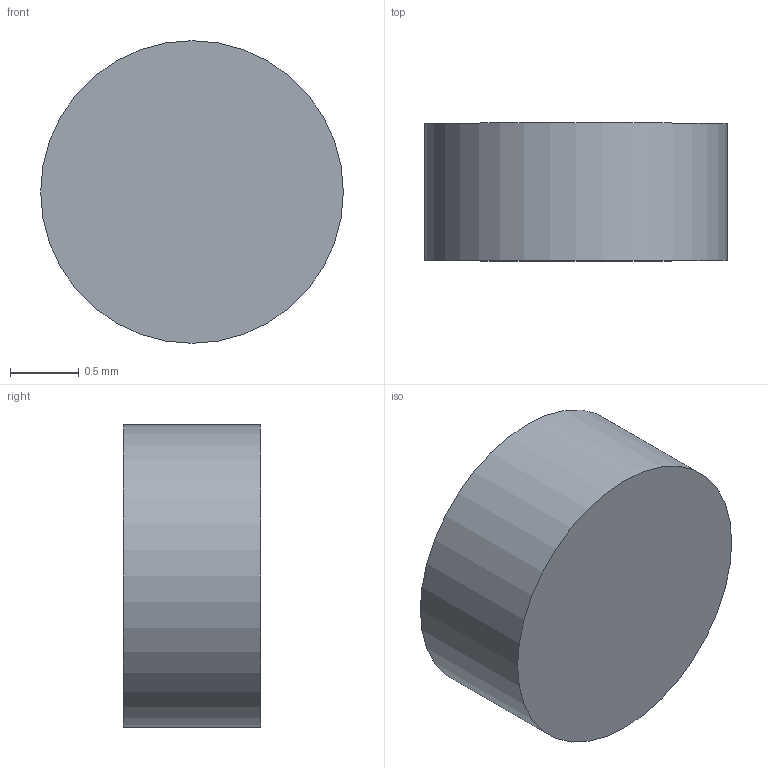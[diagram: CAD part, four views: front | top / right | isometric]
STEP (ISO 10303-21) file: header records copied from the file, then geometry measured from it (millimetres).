
FILE_DESCRIPTION(/* description */ ('STEP AP242','CAx-IF Rec.Pracs.---Representation and Presentation of Product Manufacturing Information (PMI)---4.0---2014-10-13','CAx-IF Rec.Pracs.---3D Tessellated Geometry---0.4---2014-09-14','2;1'),/* implementation_level */ '2;1');
FILE_NAME(/* name */ '6851d48f7c46943849cded1f',/* time_stamp */ '2025-06-17T20:48:15Z',/* author */ (''),/* organization */ (''),/* preprocessor_version */ 'ST-DEVELOPER v20',/* originating_system */ 'ONSHAPE BY PTC INC, 1.199',/* authorisation */ ' ');
FILE_SCHEMA (('AP242_MANAGED_MODEL_BASED_3D_ENGINEERING_MIM_LF { 1 0 10303 442 1 1 4 }'));
Length unit declared in the file: metre
Products named in the file (1): 03-OMI-TOUCHPIN_19_1
Bounding box: 2.2 x 1 x 2.2 mm (x, y, z)
Volume: 3.8 mm3; surface area: 14.5 mm2
Topology: 1 solids, 1 shells, 3 faces, 3 edges, 2 vertices
Faces by surface type: plane 2, cylinder 1
Full cylindrical faces by diameter (mm): 2.2 x1
Entity records: 76 total; most frequent: DIRECTION 12, CARTESIAN_POINT 8, AXIS2_PLACEMENT_3D 6, ORIENTED_EDGE 4, EDGE_LOOP 4, FACE_BOUND 4, ADVANCED_FACE 3, EDGE_CURVE 2
